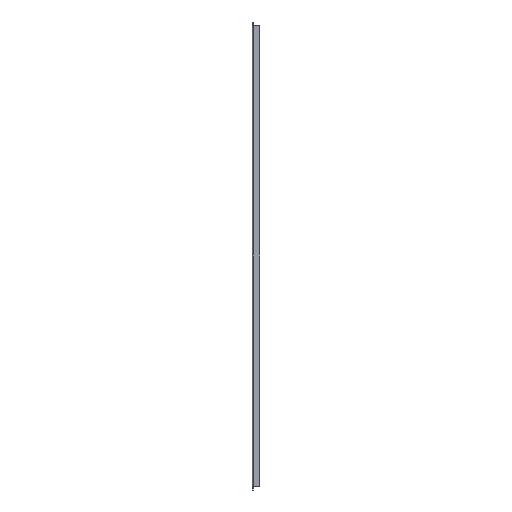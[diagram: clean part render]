
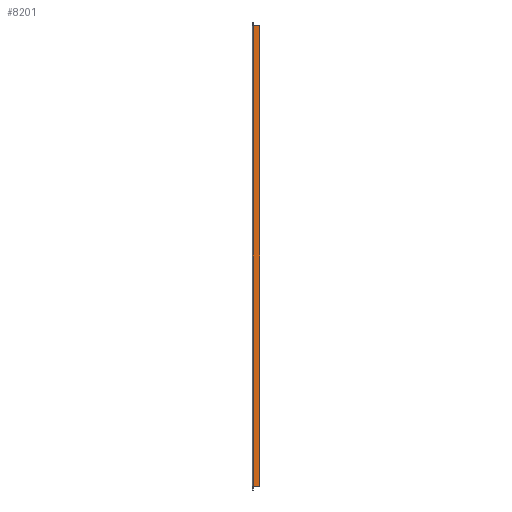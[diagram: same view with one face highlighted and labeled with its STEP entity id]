
A CAD part, left-side view. The second image highlights one B-rep face of the part: STEP entity #8201.
In plain terms, the highlighted planar face has unit normal (-1, 0, 0).
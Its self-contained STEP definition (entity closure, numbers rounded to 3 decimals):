
#4431=CARTESIAN_POINT(' ',(-184.5,-2.6,-442.5));
#4432=VERTEX_POINT(' ',#4431);
#4446=CARTESIAN_POINT(' ',(-184.5,-2.6,-442.5));
#4451=DIRECTION(' ',(0.,0.,1.));
#4456=VECTOR(' ',#4451,1.);
#4461=LINE('',#4446,#4456);
#4466=CARTESIAN_POINT(' ',(-184.5,-2.6,442.5));
#4467=VERTEX_POINT(' ',#4466);
#4471=EDGE_CURVE(' ',#4432,#4467,#4461,.T.);
#8026=CARTESIAN_POINT(' ',(-184.5,-15.,-442.5));
#8027=VERTEX_POINT(' ',#8026);
#8041=CARTESIAN_POINT(' ',(-184.5,-15.,-442.5));
#8046=DIRECTION(' ',(0.,1.,0.));
#8051=VECTOR(' ',#8046,1.);
#8056=LINE('',#8041,#8051);
#8061=EDGE_CURVE(' ',#8027,#4432,#8056,.T.);
#8091=DIRECTION(' ',(-1.,0.,0.));
#8096=CARTESIAN_POINT(' ',(-184.5,-2.6,442.5));
#8101=DIRECTION(' ',(-0.,0.,-1.));
#8106=AXIS2_PLACEMENT_3D(' ',#8096,#8091,#8101);
#8111=PLANE('NONE',#8106);
#8116=ORIENTED_EDGE(' ',*,*,#4471,.F.);
#8121=ORIENTED_EDGE(' ',*,*,#8061,.F.);
#8126=CARTESIAN_POINT(' ',(-184.5,-15.,442.5));
#8131=DIRECTION(' ',(0.,0.,-1.));
#8136=VECTOR(' ',#8131,1.);
#8141=LINE('',#8126,#8136);
#8146=CARTESIAN_POINT(' ',(-184.5,-15.,442.5));
#8147=VERTEX_POINT(' ',#8146);
#8151=EDGE_CURVE(' ',#8147,#8027,#8141,.T.);
#8156=ORIENTED_EDGE(' ',*,*,#8151,.F.);
#8161=CARTESIAN_POINT(' ',(-184.5,-2.6,442.5));
#8166=DIRECTION(' ',(0.,-1.,0.));
#8171=VECTOR(' ',#8166,1.);
#8176=LINE('',#8161,#8171);
#8181=EDGE_CURVE(' ',#4467,#8147,#8176,.T.);
#8186=ORIENTED_EDGE(' ',*,*,#8181,.F.);
#8191=EDGE_LOOP(' ',(#8116,#8121,#8156,#8186));
#8196=FACE_OUTER_BOUND(' ',#8191,.T.);
#8201=ADVANCED_FACE('NONE',(#8196),#8111,.T.);
